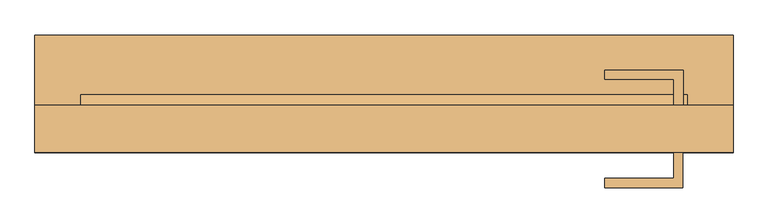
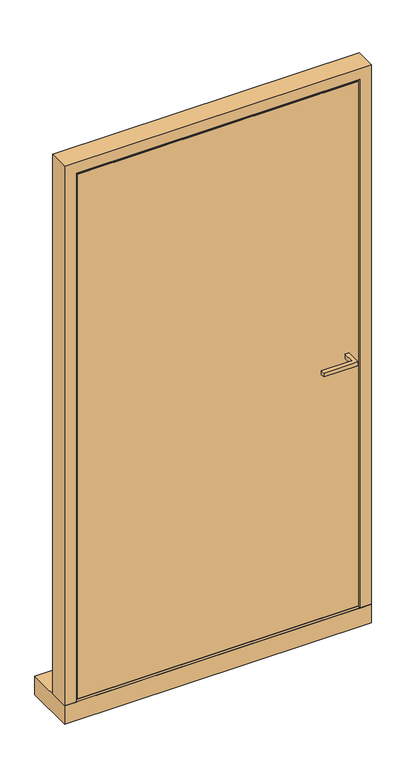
"""IFC4 building model written with IfcOpenShell, lengths in millimetres: door geometry, Reynaers_MasterLine 8_Door_Panel_Inward Opening_Single Vent_Double Sided : Reynaers_MasterLine 8_Door_Panel_Inward Opening_Single Vent_Double Sided."""

from ifc_helpers import new_model, si_unit, point, frame, frame_2d, origin, place, context, project, spatial, polyline, circle_curve, trimmed, segment, composite_curve, outline, extrude, faceted_brep, source, transform, mapped, element, save


def door_e621e59b(model_context):
    return source(origin(), model_context, "Body", "SolidModel", [
        extrude(outline(polyline([(488.2934348, 42.5), (473.2934348, 42.5), (473.2934348, 85.0), (360.7934348, 85.0), (360.7934348, 100.0), (488.2934348, 100.0), (488.2934348, 42.5)])), frame((0.0, 0.0, 1001.0), z_axis=(0.0, 0.0, 1.0), x_axis=(1.0, 0.0, 0.0)), (0.0, 0.0, 1.0), 15.0),
        extrude(outline(polyline([(488.0, -34.5), (488.0, -92.0), (360.5, -92.0), (360.5, -77.0), (473.0, -77.0), (473.0, -34.5), (488.0, -34.5)])), frame((0.0, 0.0, 1001.0), z_axis=(0.0, 0.0, 1.0), x_axis=(1.0, 0.0, 0.0)), (0.0, 0.0, 1.0), 15.0),
        faceted_brep([(516.5, -25.7, 2.4610726), (516.5, -25.5, 2.4715542), (-516.5, -25.5, 2.4715542), (-516.5, -25.7, 2.4610726), (-527.5, -25.7, 2.4610726), (-527.5, -34.5, 1.9998842), (527.5, -34.5, 1.9998842), (527.5, -25.7, 2.4610726), (516.5, -25.5, 12.0), (-516.5, -25.5, 12.0), (516.5, 28.5392099, 12.0), (-516.5, 28.5392099, 12.0), (516.5, 34.7418048, 19.3919648), (-516.5, 34.7418048, 19.3919648), (501.5, 38.7001836, 16.6202782), (501.5, 42.5, 13.9596181), (-501.5, 42.5, 13.9596181), (-501.5, 38.7001836, 16.6202782), (-516.5, 38.7001836, 16.6202782), (516.5, 38.7001836, 16.6202782), (501.5, 42.5, 1.0), (-501.5, 42.5, 1.0), (501.5, 38.7001836, 1.0), (516.5, 38.7001836, 1.0), (516.5, -25.7, 1.0), (527.5, -25.7, 1.0), (527.5, -34.5, 1.0), (-527.5, -34.5, 1.0), (-527.5, -25.7, 1.0), (-516.5, -25.7, 1.0), (-516.5, 38.7001836, 1.0), (-501.5, 38.7001836, 1.0)], [[[0, 1, 2, 3, 4, 5, 6, 7]], [[1, 8, 9, 2]], [[8, 10, 11, 9]], [[10, 12, 13, 11]], [[14, 15, 16, 17, 18, 13, 12, 19]], [[15, 20, 21, 16]], [[20, 22, 23, 24, 25, 26, 27, 28, 29, 30, 31, 21]], [[26, 6, 5, 27]], [[14, 22, 20, 15]], [[22, 14, 19, 23]], [[23, 19, 12, 10, 8, 1, 0, 24]], [[24, 0, 7, 25]], [[25, 7, 6, 26]], [[31, 17, 16, 21]], [[17, 31, 30, 18]], [[18, 30, 29, 3, 2, 9, 11, 13]], [[3, 29, 28, 4]], [[4, 28, 27, 5]]]),
        extrude(outline(composite_curve([segment(polyline([(42.5, 37.0), (42.5, 38.787494), (59.5, 32.6), (59.5, 24.0), (32.5709002, 24.0)]), True, "CONTINUOUS"), segment(trimmed(circle_curve(frame_2d((32.1934432, 20.6338261)), 3.3872704), [point((32.5709002, 24.0))], [point((31.3243396, 17.3599508))], False, "CARTESIAN"), True, "CONTINUOUS"), segment(trimmed(circle_curve(frame_2d((33.8621384, 25.8049286)), 8.8180539), [point((31.3243396, 17.3599508))], [point((26.5318662, 20.9033795))], False, "CARTESIAN"), True, "CONTINUOUS"), segment(trimmed(circle_curve(frame_2d((18.2237753, 13.7442131)), 10.9671344), [point((26.5318662, 20.9033795))], [point((23.1220903, 23.5566821))], True, "CARTESIAN"), True, "CONTINUOUS"), segment(polyline([(23.1220903, 23.5566821), (23.1220903, 24.6), (33.7, 24.6), (33.7, 34.6420471), (42.5, 37.0)]), True, "CONTINUOUS")], self_intersect=False)), frame((-495.5, 0.0, 0.0), z_axis=(1.0, 0.0, 0.0), x_axis=(0.0, 1.0, 0.0)), (0.0, 0.0, 1.0), 991.0),
        faceted_brep([(-501.5, 38.7001836, 0.0), (-516.5, 38.7001836, 0.0), (-516.5, -25.7, 0.0), (-527.5, -25.7, 0.0), (-527.5, -34.5, 0.0), (-570.0, -34.5, 0.0), (-570.0, 42.5, 0.0), (-501.5, 42.5, 0.0), (-501.5, 38.7001836, 2051.5), (501.5, 38.7001836, 2051.5), (501.5, 38.7001836, 0.0), (516.5, 38.7001836, 0.0), (516.5, 38.7001836, 2066.5), (-516.5, 38.7001836, 2066.5), (-570.0, -34.5, 2120.0), (-570.0, 42.5, 2120.0), (570.0, 42.5, 2120.0), (570.0, 42.5, 0.0), (501.5, 42.5, 0.0), (501.5, 42.5, 2051.5), (-501.5, 42.5, 2051.5), (570.0, -34.5, 2120.0), (570.0, -34.5, 0.0), (527.5, -34.5, 0.0), (527.5, -25.7, 0.0), (516.5, -25.7, 0.0), (-516.5, -25.7, 2066.5), (-527.5, -34.5, 2077.5), (527.5, -34.5, 2077.5), (516.5, -25.7, 2066.5), (527.5, -25.7, 2077.5), (-527.5, -25.7, 2077.5)], [[[0, 1, 2, 3, 4, 5, 6, 7]], [[1, 0, 8, 9, 10, 11, 12, 13]], [[6, 5, 14, 15]], [[7, 6, 15, 16, 17, 18, 19, 20]], [[0, 7, 20, 8]], [[15, 14, 21, 16]], [[8, 20, 19, 9]], [[10, 18, 17, 22, 23, 24, 25, 11]], [[16, 21, 22, 17]], [[9, 19, 18, 10]], [[2, 1, 13, 26]], [[5, 4, 27, 28, 23, 22, 21, 14]], [[26, 13, 12, 29]], [[29, 12, 11, 25]], [[3, 2, 26, 29, 25, 24, 30, 31]], [[4, 3, 31, 27]], [[27, 31, 30, 28]], [[28, 30, 24, 23]]]),
        faceted_brep([(-444.0, -31.5, 1994.0), (-444.0, 39.5, 1994.0), (444.0, 39.5, 1994.0), (444.0, -31.5, 1994.0), (-495.5, -25.7, 2045.5), (-495.5, -31.5, 2045.5), (495.5, -31.5, 2045.5), (495.5, -25.7, 2045.5), (444.0, 39.5, 88.0), (444.0, -31.5, 88.0), (495.5, -31.5, 36.5), (495.5, -25.7, 36.5), (-444.0, 39.5, 88.0), (-444.0, -31.5, 88.0), (-495.5, -31.5, 36.5), (-495.5, -25.7, 36.5), (-506.5, -25.7, 2056.5), (-506.5, -25.7, 25.5), (506.5, -25.7, 25.5), (506.5, -25.7, 2056.5), (-506.5, 33.7001837, 2056.5), (506.5, 33.7001837, 2056.5), (-495.5, 39.5, 2045.5), (-495.5, 33.7001837, 2045.5), (495.5, 33.7001837, 2045.5), (495.5, 39.5, 2045.5), (506.5, 33.7001837, 25.5), (495.5, 33.7001837, 36.5), (495.5, 39.5, 36.5), (-506.5, 33.7001837, 25.5), (-495.5, 33.7001837, 36.5), (-495.5, 39.5, 36.5)], [[[0, 1, 2, 3]], [[4, 5, 6, 7]], [[3, 2, 8, 9]], [[7, 6, 10, 11]], [[9, 8, 12, 13]], [[11, 10, 14, 15]], [[13, 12, 1, 0]], [[5, 14, 10, 6], [3, 9, 13, 0]], [[15, 14, 5, 4]], [[16, 17, 18, 19], [7, 11, 15, 4]], [[20, 16, 19, 21]], [[22, 23, 24, 25]], [[21, 19, 18, 26]], [[25, 24, 27, 28]], [[26, 18, 17, 29]], [[28, 27, 30, 31]], [[29, 17, 16, 20]], [[21, 26, 29, 20], [23, 30, 27, 24]], [[31, 30, 23, 22]], [[25, 28, 31, 22], [1, 12, 8, 2]]]),
        extrude(outline(polyline([(495.5, 42.5), (495.5, 39.5), (-495.5, 39.5), (-495.5, 42.5), (495.5, 42.5)])), frame((0.0, 0.0, 37.0), z_axis=(0.0, 0.0, 1.0), x_axis=(1.0, 0.0, 0.0)), (0.0, 0.0, 1.0), 2008.5),
        extrude(outline(polyline([(521.5, -31.5), (521.5, -34.5), (-521.5, -34.5), (-521.5, -31.5), (521.5, -31.5)])), frame((0.0, 0.0, 10.5), z_axis=(0.0, 0.0, 1.0), x_axis=(1.0, 0.0, 0.0)), (0.0, 0.0, 1.0), 2061.0),
        extrude(outline(polyline([(439.0, -31.5), (-439.0, -31.5), (-439.0, 39.5), (439.0, 39.5), (439.0, -31.5)])), frame((0.0, 0.0, 93.0), z_axis=(0.0, 0.0, 1.0), x_axis=(1.0, 0.0, 0.0)), (0.0, 0.0, 1.0), 1896.0),
        extrude(outline(polyline([(-570.0, -34.7999853), (-570.0, 157.2000147), (570.0, 157.2000147), (570.0, -34.7999853), (-570.0, -34.7999853)])), frame((0.0, 0.0, -72.0), z_axis=(0.0, 0.0, 1.0), x_axis=(1.0, 0.0, 0.0)), (0.0, 0.0, 1.0), 73.0),
    ])


if __name__ == "__main__":
    model = new_model("IFC4")
    model_context = context("Model", 3, world=origin())
    ifc_project = project(units=[si_unit("LENGTHUNIT", "METRE", prefix="MILLI")], contexts=[model_context])
    site = spatial("IfcSite", under=ifc_project)
    building = spatial("IfcBuilding", under=site)
    placement = place(None, origin())
    door_shape = door_e621e59b(model_context)
    element("IfcDoor", 1, ObjectType="Reynaers_MasterLine 8_Door_Panel_Inward Opening_Single Vent_Double Sided : Reynaers_MasterLine 8_Door_Panel_Inward Opening_Single Vent_Double Sided", at=placement, inside=building, context=model_context, shape_type="MappedRepresentation", body=[
        mapped(door_shape, transform((0.0, 0.0, 0.0), x_axis=(1.0, 0.0, 0.0), y_axis=(0.0, 1.0, 0.0), z_axis=(0.0, 0.0, 1.0))),
    ])
    save(model, "model.ifc")
